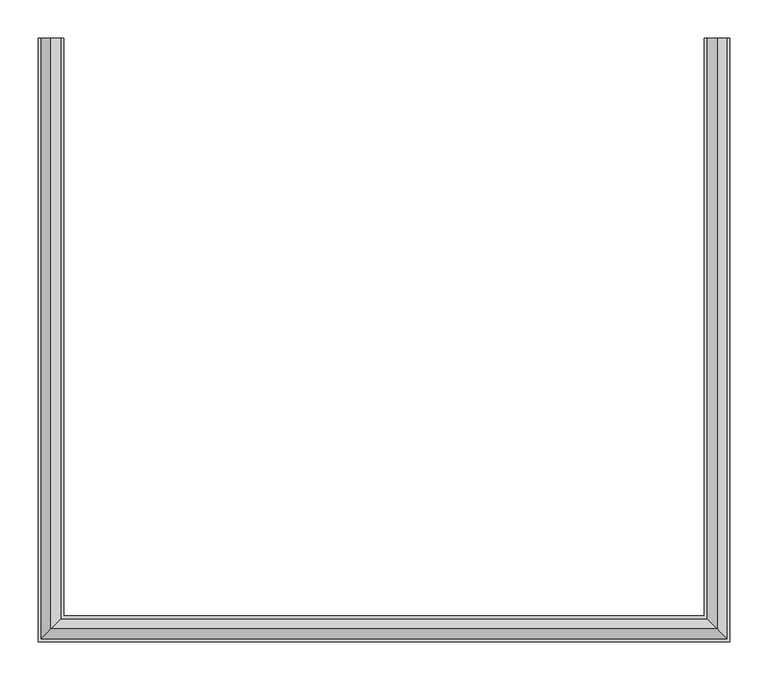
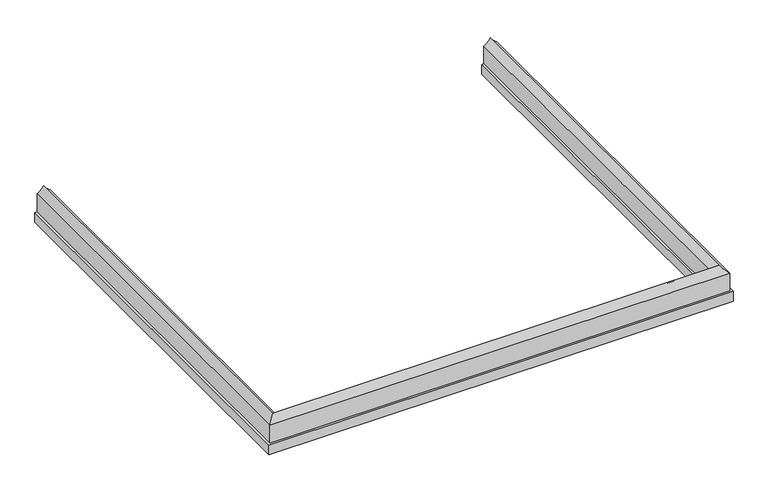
"""IFC4 building model written with IfcOpenShell, lengths in millimetres: proxy geometry."""

from ifc_helpers import new_model, si_unit, frame, origin, place, context, project, spatial, polyline, circle_curve, ellipse_curve, source, transform, mapped, element, save
from ifc_brep_helpers import plane_surface, cylinder_surface, revolved_surface, advanced_brep


def specialty_equipment_afbbe76a(model_context):
    return source(origin(), model_context, "Body", "AdvancedBrep", [
        advanced_brep(
        [(663.448, 0.0, 2063.75), (662.257375, 0.0, 2063.75), (662.257375, 0.0, 2083.990625), (666.623, 0.0, 2083.990625), (666.623, 0.0, 2120.9), (679.323, 0.0, 2133.6), (692.023, 0.0, 2120.9), (692.023, 0.0, 2083.990625), (696.388625, 0.0, 2083.990625), (696.388625, 0.0, 2063.75), (695.198, 0.0, 2063.75), (695.198, 0.0, 2082.8), (663.448, 0.0, 2082.8), (667.813625, 0.0, 2119.709375), (667.813625, 0.0, 2083.990625), (690.832375, 0.0, 2083.990625), (690.832375, 0.0, 2119.709375), (679.323, 0.0, 2131.21875), (663.448, -762.0, 2063.75), (663.448, -762.0, 2082.8), (-180.848, -762.0, 2082.8), (-180.848, -762.0, 2063.75), (695.198, -793.75, 2082.8), (695.198, -793.75, 2063.75), (-212.598, -793.75, 2063.75), (-212.598, -793.75, 2082.8), (696.388625, -794.940625, 2063.75), (696.388625, -794.940625, 2083.990625), (-213.788625, -794.940625, 2083.990625), (-213.788625, -794.940625, 2063.75), (692.023, -790.575, 2083.990625), (692.023, -790.575, 2120.9), (-209.423, -790.575, 2120.9), (-209.423, -790.575, 2083.990625), (679.323, -777.875, 2133.6), (-196.723, -777.875, 2133.6), (666.623, -765.175, 2120.9), (-184.023, -765.175, 2120.9), (666.623, -765.175, 2083.990625), (-184.023, -765.175, 2083.990625), (662.257375, -760.809375, 2083.990625), (662.257375, -760.809375, 2063.75), (-179.657375, -760.809375, 2063.75), (-179.657375, -760.809375, 2083.990625), (667.813625, -766.365625, 2119.709375), (679.323, -777.875, 2131.21875), (-196.723, -777.875, 2131.21875), (-185.213625, -766.365625, 2119.709375), (690.832375, -789.384375, 2119.709375), (-208.232375, -789.384375, 2119.709375), (690.832375, -789.384375, 2083.990625), (-208.232375, -789.384375, 2083.990625), (667.813625, -766.365625, 2083.990625), (-185.213625, -766.365625, 2083.990625), (-180.848, 0.0, 2063.75), (-180.848, 0.0, 2082.8), (-212.598, 0.0, 2082.8), (-212.598, 0.0, 2063.75), (-213.788625, 0.0, 2063.75), (-213.788625, 0.0, 2083.990625), (-209.423, 0.0, 2083.990625), (-209.423, 0.0, 2120.9), (-196.723, 0.0, 2133.6), (-184.023, 0.0, 2120.9), (-184.023, 0.0, 2083.990625), (-179.657375, 0.0, 2083.990625), (-179.657375, 0.0, 2063.75), (-185.213625, 0.0, 2119.709375), (-196.723, 0.0, 2131.21875), (-208.232375, 0.0, 2119.709375), (-208.232375, 0.0, 2083.990625), (-185.213625, 0.0, 2083.990625)],
        [
            (0, 1),
            (1, 2),
            (2, 3),
            (3, 4),
            (4, 5, circle_curve(frame((649.9091809, 0.0, 2150.3138191), z_axis=(0.0, -1.0, 0.0), x_axis=(1.0, 0.0, 0.0)), 33.8308218)),
            (5, 6, circle_curve(frame((708.7368191, 0.0, 2150.3138191), z_axis=(0.0, -1.0, 0.0), x_axis=(1.0, 0.0, 0.0)), 33.8308218)),
            (6, 7),
            (7, 8),
            (8, 9),
            (9, 10),
            (10, 11),
            (11, 12),
            (12, 0),
            (13, 14),
            (14, 15),
            (15, 16),
            (16, 17, circle_curve(frame((709.9824574, 0.0, 2150.3688324), z_axis=(0.0, 1.0, 0.0), x_axis=(1.0, 0.0, 0.0)), 36.1486927)),
            (17, 13, circle_curve(frame((648.6635426, 0.0, 2150.3688324), z_axis=(0.0, 1.0, 0.0), x_axis=(1.0, 0.0, 0.0)), 36.1486927)),
            (18, 19),
            (19, 20),
            (20, 21),
            (21, 18),
            (22, 23),
            (23, 24),
            (24, 25),
            (25, 22),
            (26, 27),
            (27, 28),
            (28, 29),
            (29, 26),
            (30, 31),
            (31, 32),
            (32, 33),
            (33, 30),
            (31, 34, ellipse_curve(frame((708.7368191, -807.2888191, 2150.3138191), z_axis=(0.7071067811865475, 0.7071067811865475, 0.0), x_axis=(-0.7071067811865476, 0.7071067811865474, 0.0)), 47.844007, 33.8308218)),
            (34, 35),
            (35, 32, ellipse_curve(frame((-226.1368191, -807.2888191, 2150.3138191), z_axis=(-0.7071067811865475, 0.7071067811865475, 0.0), x_axis=(-0.7071067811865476, -0.7071067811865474, 0.0)), 47.844007, 33.8308218)),
            (34, 36, ellipse_curve(frame((649.9091809, -748.4611809, 2150.3138191), z_axis=(0.7071067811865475, 0.7071067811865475, 0.0), x_axis=(-0.7071067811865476, 0.7071067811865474, 0.0)), 47.844007, 33.8308218)),
            (36, 37),
            (37, 35, ellipse_curve(frame((-167.3091809, -748.4611809, 2150.3138191), z_axis=(-0.7071067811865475, 0.7071067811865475, 0.0), x_axis=(-0.7071067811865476, -0.7071067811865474, 0.0)), 47.844007, 33.8308218)),
            (36, 38),
            (38, 39),
            (39, 37),
            (40, 41),
            (41, 42),
            (42, 43),
            (43, 40),
            (44, 45, ellipse_curve(frame((648.6635426, -747.2155426, 2150.3688324), z_axis=(-0.7071067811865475, -0.7071067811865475, 0.0), x_axis=(0.7071067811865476, -0.7071067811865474, 0.0)), 51.1219715, 36.1486927)),
            (45, 46),
            (46, 47, ellipse_curve(frame((-166.0635426, -747.2155426, 2150.3688324), z_axis=(0.7071067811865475, -0.7071067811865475, 0.0), x_axis=(0.7071067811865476, 0.7071067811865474, 0.0)), 51.1219715, 36.1486927)),
            (47, 44),
            (45, 48, ellipse_curve(frame((709.9824574, -808.5344574, 2150.3688324), z_axis=(-0.7071067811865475, -0.7071067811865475, 0.0), x_axis=(0.7071067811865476, -0.7071067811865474, 0.0)), 51.1219715, 36.1486927)),
            (48, 49),
            (49, 46, ellipse_curve(frame((-227.3824574, -808.5344574, 2150.3688324), z_axis=(0.7071067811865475, -0.7071067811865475, 0.0), x_axis=(0.7071067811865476, 0.7071067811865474, 0.0)), 51.1219715, 36.1486927)),
            (48, 50),
            (50, 51),
            (51, 49),
            (52, 44),
            (47, 53),
            (53, 52),
            (54, 55),
            (55, 56),
            (56, 57),
            (57, 58),
            (58, 59),
            (59, 60),
            (60, 61),
            (61, 62, circle_curve(frame((-226.1368191, 0.0, 2150.3138191), z_axis=(0.0, -1.0, 0.0), x_axis=(-1.0, 0.0, 0.0)), 33.8308218)),
            (62, 63, circle_curve(frame((-167.3091809, 0.0, 2150.3138191), z_axis=(0.0, -1.0, 0.0), x_axis=(-1.0, 0.0, 0.0)), 33.8308218)),
            (63, 64),
            (64, 65),
            (65, 66),
            (66, 54),
            (67, 68, circle_curve(frame((-166.0635426, 0.0, 2150.3688324), z_axis=(0.0, 1.0, 0.0), x_axis=(-1.0, 0.0, 0.0)), 36.1486927)),
            (68, 69, circle_curve(frame((-227.3824574, 0.0, 2150.3688324), z_axis=(0.0, 1.0, 0.0), x_axis=(-1.0, 0.0, 0.0)), 36.1486927)),
            (69, 70),
            (70, 71),
            (71, 67),
            (20, 55),
            (54, 21),
            (24, 57),
            (56, 25),
            (28, 59),
            (58, 29),
            (32, 61),
            (60, 33),
            (35, 62),
            (37, 63),
            (39, 64),
            (42, 66),
            (65, 43),
            (46, 68),
            (67, 47),
            (49, 69),
            (51, 70),
            (71, 53),
            (0, 18),
            (41, 1),
            (40, 2),
            (38, 3),
            (36, 4),
            (34, 5),
            (31, 6),
            (30, 7),
            (27, 8),
            (26, 9),
            (23, 10),
            (22, 11),
            (19, 12),
            (13, 44),
            (52, 14),
            (50, 15),
            (48, 16),
            (45, 17),
        ],
        [
            plane_surface(frame((695.198, 0.0, 0.0), z_axis=(0.0, 1.0, 0.0), x_axis=(0.0, 0.0, 1.0))),
            plane_surface(frame((663.448, -762.0, 2082.8), z_axis=(0.0, -1.0, 0.0), x_axis=(-1.0, 0.0, 0.0))),
            plane_surface(frame((695.198, -793.75, 2063.75), z_axis=(0.0, 1.0, 0.0), x_axis=(-1.0, 0.0, 0.0))),
            plane_surface(frame((696.388625, -794.940625, 2083.990625), z_axis=(0.0, -1.0, 0.0), x_axis=(-1.0, 0.0, 0.0))),
            plane_surface(frame((692.023, -790.575, 2120.9), z_axis=(0.0, -1.0, 0.0), x_axis=(-1.0, 0.0, 0.0))),
            revolved_surface(polyline([(-259.9676408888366, -841.1196408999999, 2150.3138191), (742.5676408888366, -841.1196408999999, 2150.3138191)]), (695.198, -807.2888191, 2150.3138191), (-1.0, 0.0, 0.0)),
            revolved_surface(polyline([(-201.1400026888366, -782.2920027, 2150.3138191), (683.7400026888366, -782.2920027, 2150.3138191)]), (695.198, -748.4611809, 2150.3138191), (-1.0, 0.0, 0.0)),
            plane_surface(frame((666.623, -765.175, 2083.990625), z_axis=(0.0, 1.0, 0.0), x_axis=(-1.0, 0.0, 0.0))),
            plane_surface(frame((662.257375, -760.809375, 2063.75), z_axis=(0.0, 1.0, 0.0), x_axis=(-1.0, 0.0, 0.0))),
            cylinder_surface(frame((695.198, -747.2155426, 2150.3688324), z_axis=(1.0, 0.0, 0.0), x_axis=(0.0, -1.0, 0.0)), 36.1486927),
            cylinder_surface(frame((695.198, -808.5344574, 2150.3688324), z_axis=(1.0, 0.0, 0.0), x_axis=(0.0, -1.0, 0.0)), 36.1486927),
            plane_surface(frame((690.832375, -789.384375, 2083.990625), z_axis=(0.0, 1.0, 0.0), x_axis=(-1.0, 0.0, 0.0))),
            plane_surface(frame((667.813625, -766.365625, 2119.709375), z_axis=(0.0, -1.0, 0.0), x_axis=(-1.0, 0.0, 0.0))),
            plane_surface(frame((-212.598, 0.0, 0.0), z_axis=(0.0, 1.0, 0.0), x_axis=(0.0, 0.0, 1.0))),
            plane_surface(frame((-180.848, -762.0, 2082.8), z_axis=(-1.0, 0.0, 0.0), x_axis=(0.0, 1.0, 0.0))),
            plane_surface(frame((-212.598, -793.75, 2063.75), z_axis=(1.0, 0.0, 0.0), x_axis=(0.0, 1.0, 0.0))),
            plane_surface(frame((-213.788625, -794.940625, 2083.990625), z_axis=(-1.0, 0.0, 0.0), x_axis=(0.0, 1.0, 0.0))),
            plane_surface(frame((-209.423, -790.575, 2120.9), z_axis=(-1.0, 0.0, 0.0), x_axis=(0.0, 1.0, 0.0))),
            revolved_surface(polyline([(-259.9676409, 0.0, 2150.3138191), (-259.9676409, -841.1196408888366, 2150.3138191)]), (-226.1368191, -793.75, 2150.3138191), (0.0, 1.0, 0.0)),
            revolved_surface(polyline([(-201.1400027, 0.0, 2150.3138191), (-201.1400027, -782.2920026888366, 2150.3138191)]), (-167.3091809, -793.75, 2150.3138191), (0.0, 1.0, 0.0)),
            plane_surface(frame((-184.023, -765.175, 2083.990625), z_axis=(1.0, 0.0, 0.0), x_axis=(0.0, 1.0, 0.0))),
            plane_surface(frame((-179.657375, -760.809375, 2063.75), z_axis=(1.0, 0.0, 0.0), x_axis=(0.0, 1.0, 0.0))),
            cylinder_surface(frame((-166.0635426, -793.75, 2150.3688324), z_axis=(0.0, -1.0, 0.0), x_axis=(-1.0, 0.0, 0.0)), 36.1486927),
            cylinder_surface(frame((-227.3824574, -793.75, 2150.3688324), z_axis=(0.0, -1.0, 0.0), x_axis=(-1.0, 0.0, 0.0)), 36.1486927),
            plane_surface(frame((-208.232375, -789.384375, 2083.990625), z_axis=(1.0, 0.0, 0.0), x_axis=(0.0, 1.0, 0.0))),
            plane_surface(frame((-185.213625, -766.365625, 2119.709375), z_axis=(-1.0, 0.0, 0.0), x_axis=(0.0, 1.0, 0.0))),
            plane_surface(frame((663.448, 0.0, 2063.75), z_axis=(0.0, 0.0, -1.0), x_axis=(0.0, -1.0, 0.0))),
            plane_surface(frame((662.257375, 0.0, 2063.75), z_axis=(-1.0, 0.0, 0.0), x_axis=(0.0, -1.0, 0.0))),
            plane_surface(frame((662.257375, 0.0, 2083.990625), z_axis=(0.0, 0.0, 1.0), x_axis=(0.0, -1.0, 0.0))),
            plane_surface(frame((666.623, 0.0, 2083.990625), z_axis=(-1.0, 0.0, 0.0), x_axis=(0.0, -1.0, 0.0))),
            revolved_surface(polyline([(683.7400027, -782.2920026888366, 2150.3138191), (683.7400027, 0.0, 2150.3138191)]), (649.9091809, 0.0, 2150.3138191), (0.0, -1.0, 0.0)),
            revolved_surface(polyline([(742.5676409, -841.1196408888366, 2150.3138191), (742.5676409, 0.0, 2150.3138191)]), (708.7368191, 0.0, 2150.3138191), (0.0, -1.0, 0.0)),
            plane_surface(frame((692.023, 0.0, 2120.9), z_axis=(1.0, 0.0, 0.0), x_axis=(0.0, -1.0, 0.0))),
            plane_surface(frame((692.023, 0.0, 2083.990625), z_axis=(0.0, 0.0, 1.0), x_axis=(0.0, -1.0, 0.0))),
            plane_surface(frame((696.388625, 0.0, 2083.990625), z_axis=(1.0, 0.0, 0.0), x_axis=(0.0, -1.0, 0.0))),
            plane_surface(frame((696.388625, 0.0, 2063.75), z_axis=(0.0, 0.0, -1.0), x_axis=(0.0, -1.0, 0.0))),
            plane_surface(frame((695.198, 0.0, 2063.75), z_axis=(-1.0, 0.0, 0.0), x_axis=(0.0, -1.0, 0.0))),
            plane_surface(frame((695.198, 0.0, 2082.8), z_axis=(0.0, 0.0, -1.0), x_axis=(0.0, -1.0, 0.0))),
            plane_surface(frame((663.448, 0.0, 2082.8), z_axis=(1.0, 0.0, 0.0), x_axis=(0.0, -1.0, 0.0))),
            plane_surface(frame((667.813625, 0.0, 2119.709375), z_axis=(1.0, 0.0, 0.0), x_axis=(0.0, -1.0, 0.0))),
            plane_surface(frame((667.813625, 0.0, 2083.990625), z_axis=(0.0, 0.0, 1.0), x_axis=(0.0, -1.0, 0.0))),
            plane_surface(frame((690.832375, 0.0, 2083.990625), z_axis=(-1.0, 0.0, 0.0), x_axis=(0.0, -1.0, 0.0))),
            cylinder_surface(frame((709.9824574, 0.0, 2150.3688324), z_axis=(0.0, 1.0, 0.0), x_axis=(1.0, 0.0, 0.0)), 36.1486927),
            cylinder_surface(frame((648.6635426, 0.0, 2150.3688324), z_axis=(0.0, 1.0, 0.0), x_axis=(1.0, 0.0, 0.0)), 36.1486927),
        ],
        [
            (0, [[1, 2, 3, 4, 5, 6, 7, 8, 9, 10, 11, 12, 13], [14, 15, 16, 17, 18]]),
            (1, [[19, 20, 21, 22]]),
            (2, [[23, 24, 25, 26]]),
            (3, [[27, 28, 29, 30]]),
            (4, [[31, 32, 33, 34]]),
            (5, [[35, 36, 37, -32]]),
            (6, [[38, 39, 40, -36]]),
            (7, [[41, 42, 43, -39]]),
            (8, [[44, 45, 46, 47]]),
            (9, [[48, 49, 50, 51]]),
            (10, [[52, 53, 54, -49]]),
            (11, [[55, 56, 57, -53]]),
            (12, [[58, -51, 59, 60]]),
            (13, [[61, 62, 63, 64, 65, 66, 67, 68, 69, 70, 71, 72, 73], [74, 75, 76, 77, 78]]),
            (14, [[-21, 79, -61, 80]]),
            (15, [[-25, 81, -63, 82]]),
            (16, [[-29, 83, -65, 84]]),
            (17, [[-33, 85, -67, 86]]),
            (18, [[-37, 87, -68, -85]]),
            (19, [[-40, 88, -69, -87]]),
            (20, [[-43, 89, -70, -88]]),
            (21, [[-46, 90, -72, 91]]),
            (22, [[-50, 92, -74, 93]]),
            (23, [[-54, 94, -75, -92]]),
            (24, [[-57, 95, -76, -94]]),
            (25, [[-59, -93, -78, 96]]),
            (26, [[-1, 97, -22, -80, -73, -90, -45, 98]]),
            (27, [[-2, -98, -44, 99]]),
            (28, [[-3, -99, -47, -91, -71, -89, -42, 100]]),
            (29, [[-4, -100, -41, 101]]),
            (30, [[-5, -101, -38, 102]]),
            (31, [[-6, -102, -35, 103]]),
            (32, [[-7, -103, -31, 104]]),
            (33, [[-8, -104, -34, -86, -66, -83, -28, 105]]),
            (34, [[-9, -105, -27, 106]]),
            (35, [[-10, -106, -30, -84, -64, -81, -24, 107]]),
            (36, [[-11, -107, -23, 108]]),
            (37, [[-12, -108, -26, -82, -62, -79, -20, 109]]),
            (38, [[-13, -109, -19, -97]]),
            (39, [[-14, 110, -58, 111]]),
            (40, [[-15, -111, -60, -96, -77, -95, -56, 112]]),
            (41, [[-16, -112, -55, 113]]),
            (42, [[-17, -113, -52, 114]]),
            (43, [[-18, -114, -48, -110]]),
        ],
    ),
    ])


if __name__ == "__main__":
    model = new_model("IFC4")
    model_context = context("Model", 3, world=origin())
    ifc_project = project(units=[si_unit("LENGTHUNIT", "METRE", prefix="MILLI")], contexts=[model_context])
    site = spatial("IfcSite", under=ifc_project)
    building = spatial("IfcBuilding", under=site)
    placement = place(None, origin())
    specialty_equipment_shape = specialty_equipment_afbbe76a(model_context)
    element("IfcBuildingElementProxy", 1, Name="Specialty Equipment", at=placement, inside=building, context=model_context, shape_type="MappedRepresentation", body=[
        mapped(specialty_equipment_shape, transform((0.0, 0.0, 0.0), x_axis=(1.0, 0.0, 0.0), y_axis=(0.0, 1.0, 0.0), z_axis=(0.0, 0.0, 1.0))),
    ])
    save(model, "model.ifc")
